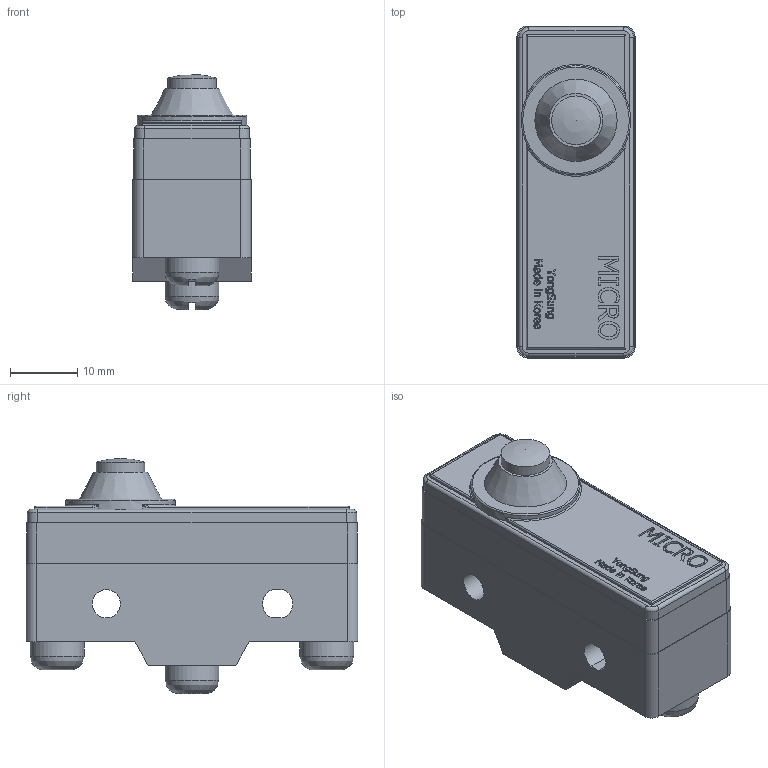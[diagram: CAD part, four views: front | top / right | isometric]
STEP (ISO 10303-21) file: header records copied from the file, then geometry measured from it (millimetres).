
FILE_DESCRIPTION(/* description */ (''),/* implementation_level */ '2;1');
FILE_NAME(/* name */ 'E:\Inventor 2016\제품 외형도\(\X2\C644B8CC\X0\) 리미트 스위치\교류용 마이크로 스위치 (Z형)\YSP3015GW-B.stp',/* time_stamp */ '2019-04-09T09:57:07+09:00',/* author */ ('Kim'),/* organization */ (''),/* preprocessor_version */ 'ST-DEVELOPER v16.1',/* originating_system */ 'Autodesk Inventor 2016',/* authorisation */ '');
FILE_SCHEMA (('AUTOMOTIVE_DESIGN { 1 0 10303 214 3 1 1 }'));
Length unit declared in the file: millimetre
Products named in the file (1): YSP3015GW-B
Bounding box: 17.5 x 49.2 x 34.85 mm (x, y, z)
Volume: 18579.4 mm3; surface area: 7558.4 mm2
Topology: 6 solids, 6 shells, 639 faces, 1725 edges, 1145 vertices
Faces by surface type: plane 339, bspline 260, cylinder 31, torus 7, cone 1, sphere 1
Full cylindrical faces by diameter (mm): 4.2 x1, 7.2 x2, 8 x3, 16.2 x1
Entity records: 22055 total; most frequent: CARTESIAN_POINT 7288, ORIENTED_EDGE 3426, DIRECTION 2007, EDGE_CURVE 1713, VERTEX_POINT 1143, LINE 1061, VECTOR 1061, EDGE_LOOP 700
